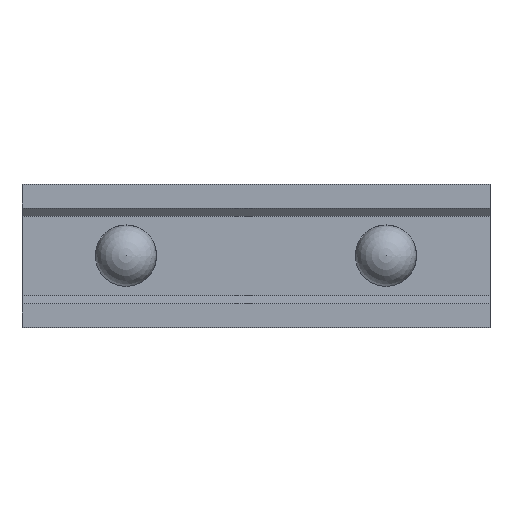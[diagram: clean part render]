
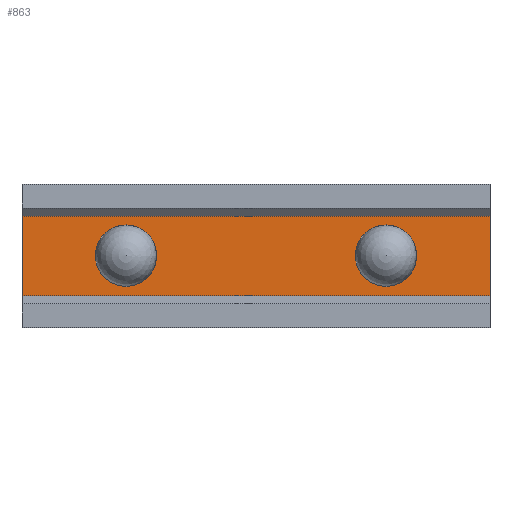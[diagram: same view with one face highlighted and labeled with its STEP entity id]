
A CAD part, top view. The second image highlights one B-rep face of the part: STEP entity #863.
In plain terms, the highlighted planar face has unit normal (0, 0, 1).
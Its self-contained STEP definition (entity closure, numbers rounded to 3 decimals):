
#114 = PLANE('',#115);
#115 = AXIS2_PLACEMENT_3D('',#116,#117,#118);
#116 = CARTESIAN_POINT('',(9.,0.,0.));
#117 = DIRECTION('',(1.,0.,0.));
#118 = DIRECTION('',(0.,0.,1.));
#142 = PLANE('',#143);
#143 = AXIS2_PLACEMENT_3D('',#144,#145,#146);
#144 = CARTESIAN_POINT('',(-9.,-1.839,1.3));
#145 = DIRECTION('',(-0.,0.912,0.41));
#146 = DIRECTION('',(0.,0.41,-0.912));
#168 = PLANE('',#169);
#169 = AXIS2_PLACEMENT_3D('',#170,#171,#172);
#170 = CARTESIAN_POINT('',(-9.,0.,0.));
#171 = DIRECTION('',(1.,0.,0.));
#172 = DIRECTION('',(0.,0.,1.));
#755 = PLANE('',#756);
#756 = AXIS2_PLACEMENT_3D('',#757,#758,#759);
#757 = CARTESIAN_POINT('',(-9.,1.528,0.607));
#758 = DIRECTION('',(0.,-0.912,0.41));
#759 = DIRECTION('',(0.,0.41,0.912));
#791 = EDGE_CURVE('',#792,#794,#796,.T.);
#792 = VERTEX_POINT('',#793);
#793 = CARTESIAN_POINT('',(-9.,1.528,0.607));
#794 = VERTEX_POINT('',#795);
#795 = CARTESIAN_POINT('',(9.,1.528,0.607));
#796 = SURFACE_CURVE('',#797,(#801,#808),.PCURVE_S1.);
#797 = LINE('',#798,#799);
#798 = CARTESIAN_POINT('',(-9.,1.528,0.607));
#799 = VECTOR('',#800,1.);
#800 = DIRECTION('',(1.,0.,0.));
#801 = PCURVE('',#755,#802);
#802 = DEFINITIONAL_REPRESENTATION('',(#803),#807);
#803 = LINE('',#804,#805);
#804 = CARTESIAN_POINT('',(0.,0.));
#805 = VECTOR('',#806,1.);
#806 = DIRECTION('',(0.,-1.));
#807 = ( GEOMETRIC_REPRESENTATION_CONTEXT(2) 
PARAMETRIC_REPRESENTATION_CONTEXT() REPRESENTATION_CONTEXT('2D SPACE',''
  ) );
#808 = PCURVE('',#809,#814);
#809 = PLANE('',#810);
#810 = AXIS2_PLACEMENT_3D('',#811,#812,#813);
#811 = CARTESIAN_POINT('',(-9.,-1.528,0.607));
#812 = DIRECTION('',(0.,0.,1.));
#813 = DIRECTION('',(0.,1.,0.));
#814 = DEFINITIONAL_REPRESENTATION('',(#815),#819);
#815 = LINE('',#816,#817);
#816 = CARTESIAN_POINT('',(3.055,0.));
#817 = VECTOR('',#818,1.);
#818 = DIRECTION('',(0.,-1.));
#819 = ( GEOMETRIC_REPRESENTATION_CONTEXT(2) 
PARAMETRIC_REPRESENTATION_CONTEXT() REPRESENTATION_CONTEXT('2D SPACE',''
  ) );
#863 = ADVANCED_FACE('',(#864),#809,.T.);
#864 = FACE_BOUND('',#865,.T.);
#865 = EDGE_LOOP('',(#866,#891,#912,#913));
#866 = ORIENTED_EDGE('',*,*,#867,.T.);
#867 = EDGE_CURVE('',#868,#870,#872,.T.);
#868 = VERTEX_POINT('',#869);
#869 = CARTESIAN_POINT('',(-9.,-1.528,0.607));
#870 = VERTEX_POINT('',#871);
#871 = CARTESIAN_POINT('',(9.,-1.528,0.607));
#872 = SURFACE_CURVE('',#873,(#877,#884),.PCURVE_S1.);
#873 = LINE('',#874,#875);
#874 = CARTESIAN_POINT('',(-9.,-1.528,0.607));
#875 = VECTOR('',#876,1.);
#876 = DIRECTION('',(1.,0.,0.));
#877 = PCURVE('',#809,#878);
#878 = DEFINITIONAL_REPRESENTATION('',(#879),#883);
#879 = LINE('',#880,#881);
#880 = CARTESIAN_POINT('',(0.,0.));
#881 = VECTOR('',#882,1.);
#882 = DIRECTION('',(0.,-1.));
#883 = ( GEOMETRIC_REPRESENTATION_CONTEXT(2) 
PARAMETRIC_REPRESENTATION_CONTEXT() REPRESENTATION_CONTEXT('2D SPACE',''
  ) );
#884 = PCURVE('',#142,#885);
#885 = DEFINITIONAL_REPRESENTATION('',(#886),#890);
#886 = LINE('',#887,#888);
#887 = CARTESIAN_POINT('',(0.76,0.));
#888 = VECTOR('',#889,1.);
#889 = DIRECTION('',(0.,-1.));
#890 = ( GEOMETRIC_REPRESENTATION_CONTEXT(2) 
PARAMETRIC_REPRESENTATION_CONTEXT() REPRESENTATION_CONTEXT('2D SPACE',''
  ) );
#891 = ORIENTED_EDGE('',*,*,#892,.T.);
#892 = EDGE_CURVE('',#870,#794,#893,.T.);
#893 = SURFACE_CURVE('',#894,(#898,#905),.PCURVE_S1.);
#894 = LINE('',#895,#896);
#895 = CARTESIAN_POINT('',(9.,-1.528,0.607));
#896 = VECTOR('',#897,1.);
#897 = DIRECTION('',(0.,1.,0.));
#898 = PCURVE('',#809,#899);
#899 = DEFINITIONAL_REPRESENTATION('',(#900),#904);
#900 = LINE('',#901,#902);
#901 = CARTESIAN_POINT('',(0.,-18.));
#902 = VECTOR('',#903,1.);
#903 = DIRECTION('',(1.,0.));
#904 = ( GEOMETRIC_REPRESENTATION_CONTEXT(2) 
PARAMETRIC_REPRESENTATION_CONTEXT() REPRESENTATION_CONTEXT('2D SPACE',''
  ) );
#905 = PCURVE('',#114,#906);
#906 = DEFINITIONAL_REPRESENTATION('',(#907),#911);
#907 = LINE('',#908,#909);
#908 = CARTESIAN_POINT('',(0.607,1.528));
#909 = VECTOR('',#910,1.);
#910 = DIRECTION('',(0.,-1.));
#911 = ( GEOMETRIC_REPRESENTATION_CONTEXT(2) 
PARAMETRIC_REPRESENTATION_CONTEXT() REPRESENTATION_CONTEXT('2D SPACE',''
  ) );
#912 = ORIENTED_EDGE('',*,*,#791,.F.);
#913 = ORIENTED_EDGE('',*,*,#914,.F.);
#914 = EDGE_CURVE('',#868,#792,#915,.T.);
#915 = SURFACE_CURVE('',#916,(#920,#927),.PCURVE_S1.);
#916 = LINE('',#917,#918);
#917 = CARTESIAN_POINT('',(-9.,-1.528,0.607));
#918 = VECTOR('',#919,1.);
#919 = DIRECTION('',(0.,1.,0.));
#920 = PCURVE('',#809,#921);
#921 = DEFINITIONAL_REPRESENTATION('',(#922),#926);
#922 = LINE('',#923,#924);
#923 = CARTESIAN_POINT('',(0.,0.));
#924 = VECTOR('',#925,1.);
#925 = DIRECTION('',(1.,0.));
#926 = ( GEOMETRIC_REPRESENTATION_CONTEXT(2) 
PARAMETRIC_REPRESENTATION_CONTEXT() REPRESENTATION_CONTEXT('2D SPACE',''
  ) );
#927 = PCURVE('',#168,#928);
#928 = DEFINITIONAL_REPRESENTATION('',(#929),#933);
#929 = LINE('',#930,#931);
#930 = CARTESIAN_POINT('',(0.607,1.528));
#931 = VECTOR('',#932,1.);
#932 = DIRECTION('',(0.,-1.));
#933 = ( GEOMETRIC_REPRESENTATION_CONTEXT(2) 
PARAMETRIC_REPRESENTATION_CONTEXT() REPRESENTATION_CONTEXT('2D SPACE',''
  ) );
